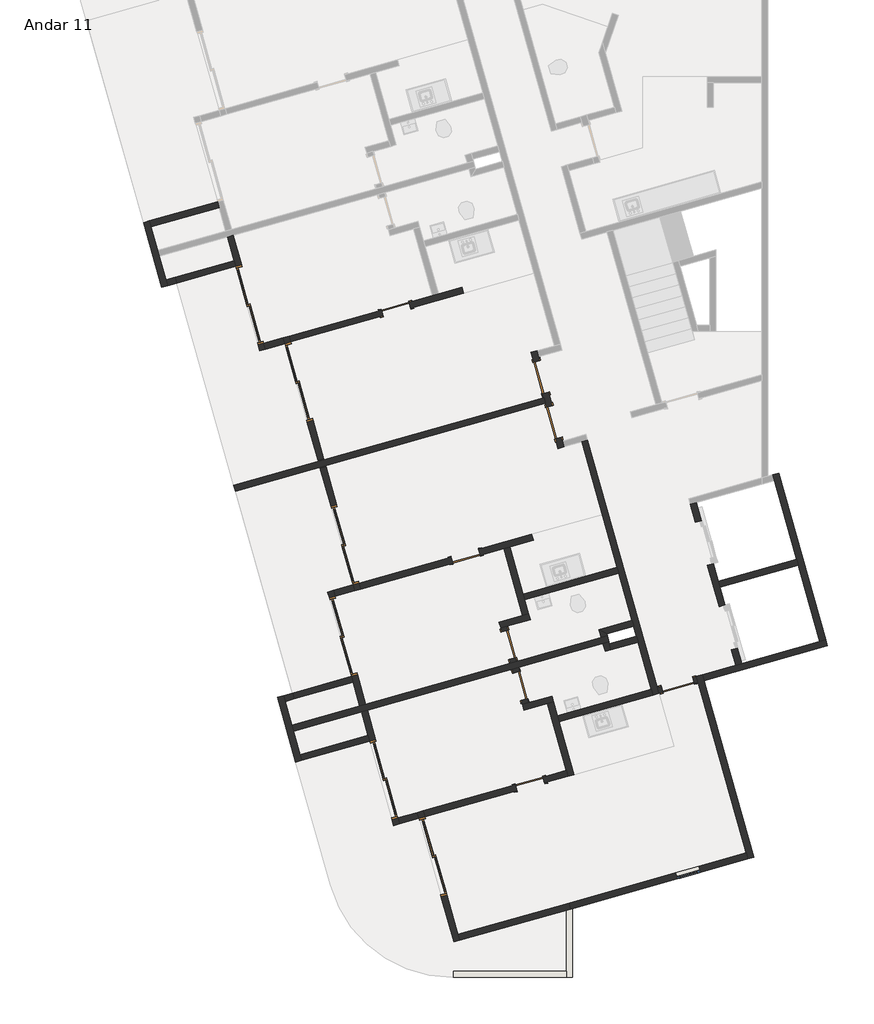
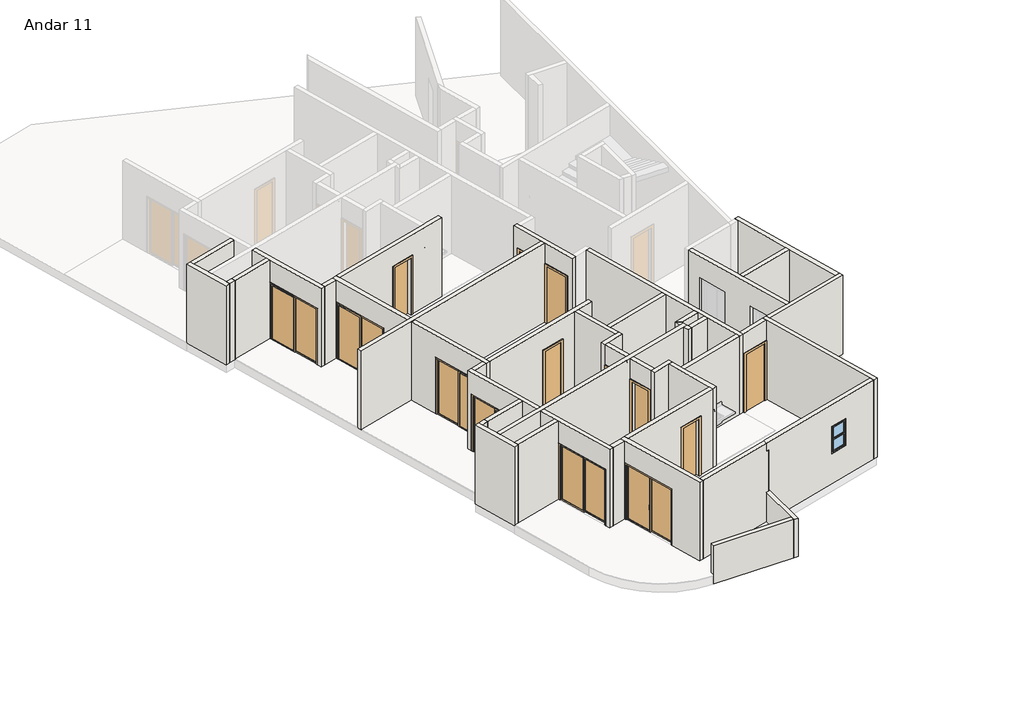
# One storey, part 1 of 3: 46 walls, 14 doors, 1 window.
"""IFC4 building model written with IfcOpenShell, lengths in millimetres."""

from ifc_helpers import new_model, si_unit, frame, origin, place, context, project, spatial, polyline, outline, extrude, faceted_brep, transform, mapped, element, save
from components import p2_80cm_9d4be4ef, p2_80cm_083652d6, p3_70cm_ef4d15e3, p3_70cm_0a698c7c, p4_correr_200cm_eaaa0877, p4_correr_200cm_830b8f20, bx_60cm_cef95a5c

model = new_model("IFC4")

# Units and contexts
model_context = context("Model", 3, world=origin())
ifc_project = project(units=[si_unit("LENGTHUNIT", "METRE", prefix="MILLI")], contexts=[model_context])

# Site, building, storey
site = spatial("IfcSite", under=ifc_project)
building = spatial("IfcBuilding", under=site)
storey = spatial("IfcBuildingStorey", under=building, Name="Andar 11", Elevation=82650.0)

# Doors
placement = place(None, origin())
p2_80cm_shape = p2_80cm_9d4be4ef(model_context)
element("IfcDoor", 1, ObjectType="M_Folha única1 : P2 - 80CM", at=placement, inside=storey, context=model_context, shape_type="MappedRepresentation", body=[
    mapped(p2_80cm_shape, transform((-80566.3456776, 19693.5423602, 82650.0), x_axis=(0.2717679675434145, -0.9623628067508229, 0.0), y_axis=(0.9623628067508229, 0.2717679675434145, 0.0), z_axis=(0.0, 0.0, 1.0))),
])
element("IfcDoor", 2, ObjectType="M_Folha única1 : P2 - 80CM", at=placement, inside=storey, context=model_context, shape_type="MappedRepresentation", body=[
    mapped(p2_80cm_shape, transform((-77213.6668366, 12144.847648, 82650.0), x_axis=(0.9623628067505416, 0.2717679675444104, 0.0), y_axis=(-0.2717679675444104, 0.9623628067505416, 0.0), z_axis=(0.0, 0.0, 1.0))),
])
p2_80cm_2_shape = p2_80cm_083652d6(model_context)
element("IfcDoor", 3, ObjectType="M_Folha única1 : P2 - 80CM", at=placement, inside=storey, context=model_context, shape_type="MappedRepresentation", body=[
    mapped(p2_80cm_2_shape, transform((-80253.8125149, 18586.8251325, 82650.0), x_axis=(-0.2717679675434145, 0.9623628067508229, 0.0), y_axis=(-0.9623628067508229, -0.2717679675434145, 0.0), z_axis=(0.0, 0.0, 1.0))),
])
p3_70cm_shape = p3_70cm_ef4d15e3(model_context)
element("IfcDoor", 4, ObjectType="M_Folha única1 : P3 - 70CM", at=placement, inside=storey, context=model_context, shape_type="MappedRepresentation", body=[
    mapped(p3_70cm_shape, transform((-84129.1775441, 21363.1168842, 82650.0), x_axis=(0.9623628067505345, 0.27176796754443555, 0.0), y_axis=(-0.27176796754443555, 0.9623628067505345, 0.0), z_axis=(0.0, 0.0, 1.0))),
])
element("IfcDoor", 5, ObjectType="M_Folha única1 : P3 - 70CM", at=placement, inside=storey, context=model_context, shape_type="MappedRepresentation", body=[
    mapped(p3_70cm_shape, transform((-80840.7851368, 9718.5269225, 82650.0), x_axis=(0.9623628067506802, 0.2717679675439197, 0.0), y_axis=(-0.2717679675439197, 0.9623628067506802, 0.0), z_axis=(0.0, 0.0, 1.0))),
])
element("IfcDoor", 6, ObjectType="M_Folha única1 : P3 - 70CM", at=placement, inside=storey, context=model_context, shape_type="MappedRepresentation", body=[
    mapped(p3_70cm_shape, transform((-81362.5862327, 13130.1209218, 82650.0), x_axis=(0.27176796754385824, -0.9623628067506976, 0.0), y_axis=(0.9623628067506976, 0.27176796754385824, 0.0), z_axis=(0.0, 0.0, 1.0))),
])
p3_70cm_2_shape = p3_70cm_0a698c7c(model_context)
element("IfcDoor", 7, ObjectType="M_Folha única1 : P3 - 70CM", at=placement, inside=storey, context=model_context, shape_type="MappedRepresentation", body=[
    mapped(p3_70cm_2_shape, transform((-81077.2298668, 12119.6399747, 82650.0), x_axis=(-0.27176796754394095, 0.9623628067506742, 0.0), y_axis=(-0.9623628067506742, -0.27176796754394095, 0.0), z_axis=(0.0, 0.0, 1.0))),
])
element("IfcDoor", 8, ObjectType="M_Folha única1 : P3 - 70CM", at=placement, inside=storey, context=model_context, shape_type="MappedRepresentation", body=[
    mapped(p3_70cm_2_shape, transform((-82417.0393485, 15300.2312016, 82650.0), x_axis=(0.9623628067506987, 0.2717679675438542, 0.0), y_axis=(-0.2717679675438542, 0.9623628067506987, 0.0), z_axis=(0.0, 0.0, 1.0))),
])
p4_correr_200cm_shape = p4_correr_200cm_eaaa0877(model_context)
element("IfcDoor", 9, ObjectType="Porta de correr dupla envidraçada sem revestimento : P4 - CORRER - 200CM", at=placement, inside=storey, context=model_context, shape_type="MappedRepresentation", body=[
    mapped(p4_correr_200cm_shape, transform((-86511.4049952, 19573.3416554, 82650.0), x_axis=(0.2717679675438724, -0.9623628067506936, 0.0), y_axis=(0.9623628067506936, 0.2717679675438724, 0.0), z_axis=(0.0, 0.0, 1.0))),
])
element("IfcDoor", 10, ObjectType="Porta de correr dupla envidraçada sem revestimento : P4 - CORRER - 200CM", at=placement, inside=storey, context=model_context, shape_type="MappedRepresentation", body=[
    mapped(p4_correr_200cm_shape, transform((-87717.4207223, 21466.8516126, 82650.0), x_axis=(0.2717679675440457, -0.9623628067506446, 0.0), y_axis=(0.9623628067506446, 0.2717679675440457, 0.0), z_axis=(0.0, 0.0, 1.0))),
])
element("IfcDoor", 11, ObjectType="Porta de correr dupla envidraçada sem revestimento : P4 - CORRER - 200CM", at=placement, inside=storey, context=model_context, shape_type="MappedRepresentation", body=[
    mapped(p4_correr_200cm_shape, transform((-84429.028315, 9822.2616509, 82650.0), x_axis=(-0.27176796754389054, 0.9623628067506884, 0.0), y_axis=(-0.9623628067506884, -0.27176796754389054, 0.0), z_axis=(0.0, 0.0, 1.0))),
])
element("IfcDoor", 12, ObjectType="Porta de correr dupla envidraçada sem revestimento : P4 - CORRER - 200CM", at=placement, inside=storey, context=model_context, shape_type="MappedRepresentation", body=[
    mapped(p4_correr_200cm_shape, transform((-83223.012588, 7928.7516937, 82650.0), x_axis=(-0.2717679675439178, 0.9623628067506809, 0.0), y_axis=(-0.9623628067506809, -0.2717679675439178, 0.0), z_axis=(0.0, 0.0, 1.0))),
])
p4_correr_200cm_2_shape = p4_correr_200cm_830b8f20(model_context)
element("IfcDoor", 13, ObjectType="Porta de correr dupla envidraçada sem revestimento : P4 - CORRER - 200CM", at=placement, inside=storey, context=model_context, shape_type="MappedRepresentation", body=[
    mapped(p4_correr_200cm_2_shape, transform((-85383.5679299, 15579.5360073, 82650.0), x_axis=(-0.2717679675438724, 0.9623628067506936, 0.0), y_axis=(-0.9623628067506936, -0.2717679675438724, 0.0), z_axis=(0.0, 0.0, 1.0))),
])
element("IfcDoor", 14, ObjectType="Porta de correr dupla envidraçada sem revestimento : P4 - CORRER - 200CM", at=placement, inside=storey, context=model_context, shape_type="MappedRepresentation", body=[
    mapped(p4_correr_200cm_2_shape, transform((-85420.9813965, 13334.8858955, 82650.0), x_axis=(-0.27176796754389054, 0.9623628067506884, 0.0), y_axis=(-0.9623628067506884, -0.27176796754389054, 0.0), z_axis=(0.0, 0.0, 1.0))),
])

# Walls
element("IfcWall", 15, ObjectType="Básica .15 - Externa", at=placement, inside=storey, context=model_context, shape_type="Brep", body=[
    faceted_brep([(-75344.9919691, 7919.3931149, 82650.0), (-76567.7484146, 12249.3196164, 82650.0), (-76608.5136097, 12393.6740374, 82650.0), (-76608.5136097, 12393.6740374, 85550.0), (-76567.7484146, 12249.3196164, 85550.0), (-75344.9919691, 7919.3931149, 85550.0), (-75489.3463901, 7878.6279198, 82650.0), (-75489.3463901, 7878.6279198, 85550.0), (-75530.1115852, 8022.9823408, 85550.0), (-76712.1028356, 12208.5544213, 85550.0), (-76752.8680308, 12352.9088423, 85550.0), (-76752.8680308, 12352.9088423, 82650.0), (-76712.1028356, 12208.5544213, 82650.0), (-75530.1115852, 8022.9823408, 82650.0)], [[[0, 1, 2, 3, 4, 5]], [[6, 7, 8, 9, 10, 11, 12, 13]], [[2, 1, 0, 6, 13, 12, 11]], [[5, 4, 3, 10, 9, 8, 7]], [[0, 5, 7, 6]], [[3, 2, 11, 10]]]),
])
element("IfcWall", 16, ObjectType="Básica .15 -  Interna", at=placement, inside=storey, context=model_context, shape_type="Brep", body=[
    faceted_brep([(-80529.815701, 19288.21464, 82650.0), (-80502.6389043, 19191.9783593, 82650.0), (-80461.8737092, 19047.6239383, 82650.0), (-80434.6969124, 18951.3876576, 82650.0), (-80434.6969124, 18951.3876576, 84750.0), (-80217.2825384, 18181.4974122, 84750.0), (-80217.2825384, 18181.4974122, 82650.0), (-80149.3405465, 17940.9067105, 82650.0), (-80149.3405465, 17940.9067105, 85550.0), (-80461.8737092, 19047.6239383, 85550.0), (-80502.6389043, 19191.9783593, 85550.0), (-80815.172067, 20298.695587, 85550.0), (-80815.172067, 20298.695587, 82650.0), (-80747.2300751, 20058.1048854, 82650.0), (-80747.2300751, 20058.1048854, 84750.0), (-80529.815701, 19288.21464, 84750.0), (-80290.3424914, 18992.1528527, 84750.0), (-80290.3424914, 18992.1528527, 82650.0), (-80385.46128, 19328.9798351, 82650.0), (-80385.46128, 19328.9798351, 84750.0), (-80602.8756541, 20098.8700805, 84750.0), (-80602.8756541, 20098.8700805, 82650.0), (-80630.0524508, 20195.1063612, 82650.0), (-80670.817646, 20339.4607822, 82650.0), (-80670.817646, 20339.4607822, 85550.0), (-80630.0524508, 20195.1063612, 85550.0), (-80045.7513206, 18126.0263266, 85550.0), (-80004.9861255, 17981.6719056, 85550.0), (-80004.9861255, 17981.6719056, 82650.0), (-80045.7513206, 18126.0263266, 82650.0), (-80072.9281174, 18222.2626073, 82650.0), (-80072.9281174, 18222.2626073, 84750.0)], [[[0, 1, 2, 3, 4, 5, 6, 7, 8, 9, 10, 11, 12, 13, 14, 15]], [[16, 17, 18, 19, 20, 21, 22, 23, 24, 25, 26, 27, 28, 29, 30, 31]], [[13, 12, 23, 22, 21]], [[18, 17, 3, 2, 1, 0]], [[30, 29, 28, 7, 6]], [[11, 10, 9, 8, 27, 26, 25, 24]], [[12, 11, 24, 23]], [[8, 7, 28, 27]], [[19, 18, 0, 15]], [[20, 19, 15, 14]], [[21, 20, 14, 13]], [[4, 3, 17, 16]], [[5, 4, 16, 31]], [[6, 5, 31, 30]]]),
])
element("IfcWall", 17, ObjectType="Básica .15 -  Interna", at=placement, inside=storey, context=model_context, shape_type="Brep", body=[
    faceted_brep([(-79571.9228624, 18103.967491, 82650.0), (-78702.2653663, 15024.4065094, 82650.0), (-78661.5001712, 14880.0520884, 82650.0), (-78335.3786101, 13725.2167203, 82650.0), (-78294.613415, 13580.8622993, 82650.0), (-78226.6714231, 13340.2715976, 82650.0), (-78185.906228, 13195.9171766, 82650.0), (-77818.8200634, 11896.0212586, 82650.0), (-77818.8200634, 11896.0212586, 85550.0), (-78185.906228, 13195.9171766, 85550.0), (-78226.6714231, 13340.2715976, 85550.0), (-78294.613415, 13580.8622993, 85550.0), (-78335.3786101, 13725.2167203, 85550.0), (-78661.5001712, 14880.0520884, 85550.0), (-78702.2653663, 15024.4065094, 85550.0), (-79571.9228624, 18103.967491, 85550.0), (-79427.5684414, 18144.7326862, 82650.0), (-79427.5684414, 18144.7326862, 85550.0), (-77715.2308375, 12081.1408747, 85550.0), (-77674.4656424, 11936.7864537, 85550.0), (-77674.4656424, 11936.7864537, 82650.0), (-77715.2308375, 12081.1408747, 82650.0)], [[[0, 1, 2, 3, 4, 5, 6, 7, 8, 9, 10, 11, 12, 13, 14, 15]], [[16, 17, 18, 19, 20, 21]], [[7, 6, 5, 4, 3, 2, 1, 0, 16, 21, 20]], [[15, 14, 13, 12, 11, 10, 9, 8, 19, 18, 17]], [[0, 15, 17, 16]], [[8, 7, 20, 19]]]),
])
element("IfcWall", 18, ObjectType="Básica .15 -  Interna", at=placement, inside=storey, context=model_context, shape_type="Brep", body=[
    faceted_brep([(-85017.5646639, 11630.3683862, 85550.0), (-85180.6254444, 12207.7860702, 85550.0), (-85221.3906395, 12352.1404912, 85550.0), (-85805.6917697, 14421.2205257, 85550.0), (-85805.6917697, 14421.2205257, 82650.0), (-85764.9265746, 14276.8661047, 82650.0), (-85764.9265746, 14276.8661047, 84750.0), (-85221.3906395, 12352.1404912, 84750.0), (-85221.3906395, 12352.1404912, 82650.0), (-85180.6254444, 12207.7860702, 82650.0), (-85017.5646639, 11630.3683862, 82650.0), (-85661.3373487, 14461.9857209, 85550.0), (-85620.5721536, 14317.6312998, 85550.0), (-84873.2102428, 11671.1335813, 85550.0), (-84873.2102428, 11671.1335813, 82650.0), (-85077.0362185, 12392.9056863, 82650.0), (-85077.0362185, 12392.9056863, 84750.0), (-85620.5721536, 14317.6312998, 84750.0), (-85620.5721536, 14317.6312998, 82650.0), (-85661.3373487, 14461.9857209, 82650.0)], [[[0, 1, 2, 3, 4, 5, 6, 7, 8, 9, 10]], [[11, 12, 13, 14, 15, 16, 17, 18, 19]], [[4, 19, 18, 5]], [[14, 10, 9, 8, 15]], [[3, 2, 1, 0, 13, 12, 11]], [[4, 3, 11, 19]], [[0, 10, 14, 13]], [[17, 6, 5, 18]], [[6, 17, 16, 7]], [[7, 16, 15, 8]]]),
])
element("IfcWall", 19, ObjectType="Básica .15 -  Interna", at=placement, inside=storey, context=model_context, shape_type="Brep", body=[
    faceted_brep([(-82710.8886682, 5839.2890616, 85550.0), (-83566.957766, 8870.7319029, 85550.0), (-83607.7229611, 9015.0863239, 85550.0), (-83607.7229611, 9015.0863239, 82650.0), (-83566.957766, 8870.7319029, 82650.0), (-83566.957766, 8870.7319029, 84750.0), (-83023.4218309, 6946.0062894, 84750.0), (-83023.4218309, 6946.0062894, 82650.0), (-82710.8886682, 5839.2890616, 82650.0), (-83463.3685401, 9055.851519, 85550.0), (-83422.603345, 8911.497098, 85550.0), (-82607.2994424, 6024.4086777, 85550.0), (-82566.5342472, 5880.0542567, 85550.0), (-82566.5342472, 5880.0542567, 82650.0), (-82607.2994424, 6024.4086777, 82650.0), (-82879.0674099, 6986.7714845, 82650.0), (-82879.0674099, 6986.7714845, 84750.0), (-83422.603345, 8911.497098, 84750.0), (-83422.603345, 8911.497098, 82650.0), (-83463.3685401, 9055.851519, 82650.0)], [[[0, 1, 2, 3, 4, 5, 6, 7, 8]], [[9, 10, 11, 12, 13, 14, 15, 16, 17, 18, 19]], [[3, 19, 18, 4]], [[13, 8, 7, 15, 14]], [[2, 1, 0, 12, 11, 10, 9]], [[3, 2, 9, 19]], [[0, 8, 13, 12]], [[17, 5, 4, 18]], [[5, 17, 16, 6]], [[6, 16, 15, 7]]]),
])
element("IfcWall", 20, ObjectType="Básica .15 -  Interna", at=placement, inside=storey, context=model_context, shape_type="Brep", body=[
    faceted_brep([(-86046.8404698, 17652.2925145, 82650.0), (-86046.8404698, 17652.2925145, 85550.0), (-86855.3501733, 20515.3218646, 85550.0), (-86896.1153684, 20659.6762856, 85550.0), (-86896.1153684, 20659.6762856, 82650.0), (-86855.3501733, 20515.3218646, 82650.0), (-86855.3501733, 20515.3218646, 84750.0), (-86311.8142382, 18590.596251, 84750.0), (-86311.8142382, 18590.596251, 82650.0), (-85902.4860488, 17693.0577096, 85550.0), (-85902.4860488, 17693.0577096, 82650.0), (-86167.4598172, 18631.3614462, 82650.0), (-86167.4598172, 18631.3614462, 84750.0), (-86710.9957523, 20556.0870597, 84750.0), (-86710.9957523, 20556.0870597, 82650.0), (-86751.7609474, 20700.4414807, 82650.0), (-86751.7609474, 20700.4414807, 85550.0), (-86710.9957523, 20556.0870597, 85550.0)], [[[0, 1, 2, 3, 4, 5, 6, 7, 8]], [[9, 10, 11, 12, 13, 14, 15, 16, 17]], [[10, 0, 8, 11]], [[4, 15, 14, 5]], [[1, 0, 10, 9]], [[3, 2, 1, 9, 17, 16]], [[4, 3, 16, 15]], [[7, 12, 11, 8]], [[12, 7, 6, 13]], [[13, 6, 5, 14]]]),
])
element("IfcWall", 21, ObjectType="Básica .15 - Externa", at=placement, inside=storey, context=model_context, shape_type="Brep", body=[
    faceted_brep([(-79945.4990038, 6620.2256515, 83750.0), (-79945.4990038, 6620.2256515, 82650.0), (-79945.4990038, 6620.2256515, 82350.0), (-79945.4990038, 5119.4122055, 82350.0), (-79945.4990038, 4969.4122055, 82350.0), (-79945.4990038, 4969.4122055, 83750.0), (-79945.4990038, 5119.4122055, 83750.0), (-79795.4990038, 6662.5851389, 82350.0), (-79795.4990038, 6662.5851389, 83750.0), (-79795.4990038, 4969.4122055, 83750.0), (-79795.4990038, 4969.4122055, 82350.0), (-79850.1164062, 6647.1613711, 82350.0)], [[[0, 1, 2, 3, 4, 5, 6]], [[7, 8, 9, 10]], [[4, 3, 2, 11, 7, 10]], [[0, 6, 5, 9, 8]], [[5, 4, 10, 9]], [[0, 8, 7, 11, 2, 1]]]),
])
element("IfcWall", 22, ObjectType="Básica .15 - Externa", at=placement, inside=storey, context=model_context, shape_type="SweptSolid", body=[
    extrude(outline(polyline([(-82713.5540687, 5119.4122055), (-79945.4990038, 5119.4122055), (-79945.4990038, 4969.4122055), (-82713.5540687, 4969.4122055), (-82713.5540687, 5119.4122055)])), frame((0.0, 0.0, 82350.0), z_axis=(0.0, 0.0, 1.0), x_axis=(1.0, 0.0, 0.0)), (0.0, 0.0, 1.0), 1400.0),
])
element("IfcWall", 23, ObjectType="Básica .15 - Externa", at=placement, inside=storey, context=model_context, shape_type="Brep", body=[
    faceted_brep([(-73581.8825825, 13248.3842954, 82650.0), (-73726.2370035, 13207.6191002, 82650.0), (-75646.150803, 12665.442005, 82650.0), (-75790.505224, 12624.6768098, 82650.0), (-76608.5136097, 12393.6740374, 82650.0), (-76608.5136097, 12393.6740374, 85550.0), (-75790.505224, 12624.6768098, 85550.0), (-75646.150803, 12665.442005, 85550.0), (-73726.2370035, 13207.6191002, 85550.0), (-73581.8825825, 13248.3842954, 85550.0), (-73541.1173874, 13104.0298743, 82650.0), (-73541.1173874, 13104.0298743, 85550.0), (-76567.7484146, 12249.3196164, 85550.0), (-76567.7484146, 12249.3196164, 82650.0)], [[[0, 1, 2, 3, 4, 5, 6, 7, 8, 9]], [[10, 11, 12, 13]], [[4, 3, 2, 1, 0, 10, 13]], [[9, 8, 7, 6, 5, 12, 11]], [[0, 9, 11, 10]], [[5, 4, 13, 12]]]),
])
element("IfcWall", 24, ObjectType="Básica .15 - Externa", at=placement, inside=storey, context=model_context, shape_type="Brep", body=[
    faceted_brep([(-74881.2508656, 17297.6610289, 82650.0), (-74840.4856705, 17153.3066079, 82650.0), (-74296.9497354, 15228.5809944, 82650.0), (-74256.1845402, 15084.2265734, 82650.0), (-73726.2370035, 13207.6191002, 82650.0), (-73726.2370035, 13207.6191002, 85550.0), (-74256.1845402, 15084.2265734, 85550.0), (-74296.9497354, 15228.5809944, 85550.0), (-74840.4856705, 17153.3066079, 85550.0), (-74881.2508656, 17297.6610289, 85550.0), (-74736.8964446, 17338.426224, 82650.0), (-74736.8964446, 17338.426224, 85550.0), (-73581.8825825, 13248.3842954, 85550.0), (-73581.8825825, 13248.3842954, 82650.0)], [[[0, 1, 2, 3, 4, 5, 6, 7, 8, 9]], [[10, 11, 12, 13]], [[4, 3, 2, 1, 0, 10, 13]], [[9, 8, 7, 6, 5, 12, 11]], [[0, 9, 11, 10]], [[5, 4, 13, 12]]]),
])
element("IfcWall", 25, ObjectType="Básica .15 -  Interna", at=placement, inside=storey, context=model_context, shape_type="Brep", body=[
    faceted_brep([(-76483.167581, 15077.4768805, 82650.0), (-76197.8112151, 14066.9959334, 82650.0), (-76197.8112151, 14066.9959334, 84775.0), (-75898.8664508, 13008.396846, 84775.0), (-75898.8664508, 13008.396846, 82650.0), (-75790.505224, 12624.6768098, 82650.0), (-75790.505224, 12624.6768098, 85550.0), (-76904.7538909, 16570.3643175, 85550.0), (-76904.7538909, 16570.3643175, 82650.0), (-76782.1123453, 16136.075968, 82650.0), (-76782.1123453, 16136.075968, 84775.0), (-76483.167581, 15077.4768805, 84775.0), (-76053.4567941, 14107.7611286, 84775.0), (-76053.4567941, 14107.7611286, 82650.0), (-76176.0983397, 14542.0494781, 82650.0), (-76216.8635348, 14686.4038991, 82650.0), (-76338.81316, 15118.2420757, 82650.0), (-76338.81316, 15118.2420757, 84775.0), (-76637.7579243, 16176.8411631, 84775.0), (-76637.7579243, 16176.8411631, 82650.0), (-76760.3994699, 16611.1295126, 82650.0), (-76760.3994699, 16611.1295126, 85550.0), (-76216.8635348, 14686.4038991, 85550.0), (-76176.0983397, 14542.0494781, 85550.0), (-75646.150803, 12665.442005, 85550.0), (-75646.150803, 12665.442005, 82650.0), (-75754.5120298, 13049.1620412, 82650.0), (-75754.5120298, 13049.1620412, 84775.0)], [[[0, 1, 2, 3, 4, 5, 6, 7, 8, 9, 10, 11]], [[12, 13, 14, 15, 16, 17, 18, 19, 20, 21, 22, 23, 24, 25, 26, 27]], [[9, 8, 20, 19]], [[26, 25, 5, 4]], [[16, 15, 14, 13, 1, 0]], [[7, 6, 24, 23, 22, 21]], [[8, 7, 21, 20]], [[6, 5, 25, 24]], [[4, 3, 27, 26]], [[2, 1, 13, 12]], [[3, 2, 12, 27]], [[19, 18, 10, 9]], [[17, 16, 0, 11]], [[18, 17, 11, 10]]]),
])
element("IfcWall", 26, ObjectType="Básica .15 -  Interna", at=placement, inside=storey, context=model_context, shape_type="SweptSolid", body=[
    extrude(outline(polyline([(-74256.1845402, 15084.2265734), (-76176.0983397, 14542.0494781), (-76216.8635348, 14686.4038991), (-74296.9497354, 15228.5809944), (-74256.1845402, 15084.2265734)])), frame((0.0, 0.0, 82650.0), z_axis=(0.0, 0.0, 1.0), x_axis=(1.0, 0.0, 0.0)), (0.0, 0.0, 1.0), 2900.0),
])
element("IfcWall", 27, ObjectType="Básica .15 -  Interna", at=placement, inside=storey, context=model_context, shape_type="Brep", body=[
    faceted_brep([(-82566.5342472, 5880.0542567, 82650.0), (-79945.4990038, 6620.2256515, 82650.0), (-79850.1164062, 6647.1613711, 82650.0), (-79850.1164062, 6647.1613711, 85250.0), (-79945.4990038, 6620.2256515, 85250.0), (-79945.4990038, 6620.2256515, 85550.0), (-82566.5342472, 5880.0542567, 85550.0), (-82607.2994424, 6024.4086777, 82650.0), (-82607.2994424, 6024.4086777, 85550.0), (-79945.4990038, 6776.0920243, 85550.0), (-79945.4990038, 6776.0920243, 85250.0), (-79890.8816014, 6791.5157921, 85250.0), (-79890.8816014, 6791.5157921, 82650.0), (-79945.4990038, 6776.0920243, 82650.0)], [[[0, 1, 2, 3, 4, 5, 6]], [[7, 8, 9, 10, 11, 12, 13]], [[2, 1, 0, 7, 13, 12]], [[6, 5, 9, 8]], [[0, 6, 8, 7]], [[2, 12, 11, 3]], [[10, 4, 3, 11]], [[5, 4, 10, 9]]]),
])
element("IfcWall", 28, ObjectType="Básica .15 -  Interna", at=placement, inside=storey, context=model_context, shape_type="Brep", body=[
    faceted_brep([(-85221.3906395, 12352.1404912, 82650.0), (-86668.7560772, 11943.4094383, 82650.0), (-86668.7560772, 11943.4094383, 85550.0), (-85221.3906395, 12352.1404912, 85550.0), (-85221.3906395, 12352.1404912, 84750.0), (-85180.6254444, 12207.7860702, 82650.0), (-85180.6254444, 12207.7860702, 85550.0), (-86627.9908821, 11799.0550173, 85550.0), (-86627.9908821, 11799.0550173, 82650.0)], [[[0, 1, 2, 3, 4]], [[5, 6, 7, 8]], [[1, 0, 5, 8]], [[2, 1, 8, 7]], [[3, 2, 7, 6]], [[0, 4, 3, 6, 5]]]),
])
element("IfcWall", 29, ObjectType="Básica .15 - Externa", at=placement, inside=storey, context=model_context, shape_type="Brep", body=[
    faceted_brep([(-86444.4738537, 10292.215871, 82650.0), (-86485.2390488, 10436.570292, 82650.0), (-86648.2998293, 11013.987976, 82650.0), (-86689.0650245, 11158.342397, 82650.0), (-86852.125805, 11735.7600811, 82650.0), (-86892.8910001, 11880.1145021, 82650.0), (-86892.8910001, 11880.1145021, 85550.0), (-86852.125805, 11735.7600811, 85550.0), (-86689.0650245, 11158.342397, 85550.0), (-86648.2998293, 11013.987976, 85550.0), (-86485.2390488, 10436.570292, 85550.0), (-86444.4738537, 10292.215871, 85550.0), (-86588.8282747, 10251.4506758, 82650.0), (-86588.8282747, 10251.4506758, 85550.0), (-87037.2454211, 11839.349307, 85550.0), (-87037.2454211, 11839.349307, 82650.0)], [[[0, 1, 2, 3, 4, 5, 6, 7, 8, 9, 10, 11]], [[12, 13, 14, 15]], [[5, 4, 3, 2, 1, 0, 12, 15]], [[11, 10, 9, 8, 7, 6, 14, 13]], [[6, 5, 15, 14]], [[0, 11, 13, 12]]]),
])
element("IfcWall", 30, ObjectType="Básica .15 -  Interna", at=placement, inside=storey, context=model_context, shape_type="Brep", body=[
    faceted_brep([(-86444.4738537, 10292.215871, 82650.0), (-84772.9734931, 10764.2418601, 82650.0), (-84772.9734931, 10764.2418601, 84750.0), (-84772.9734931, 10764.2418601, 85550.0), (-86444.4738537, 10292.215871, 85550.0), (-86485.2390488, 10436.570292, 82650.0), (-86485.2390488, 10436.570292, 85550.0), (-84813.7386882, 10908.5962811, 85550.0), (-84813.7386882, 10908.5962811, 82650.0)], [[[0, 1, 2, 3, 4]], [[5, 6, 7, 8]], [[1, 0, 5, 8]], [[4, 3, 7, 6]], [[0, 4, 6, 5]], [[3, 2, 1, 8, 7]]]),
])
element("IfcWall", 31, ObjectType="Básica .15 - Externa", at=placement, inside=storey, context=model_context, shape_type="Brep", body=[
    faceted_brep([(-89732.866261, 21936.8058326, 82650.0), (-89773.6314561, 22081.1602536, 82650.0), (-89936.6922366, 22658.5779377, 82650.0), (-89977.4574318, 22802.9323587, 82650.0), (-90140.5182123, 23380.3500428, 82650.0), (-90181.2834074, 23524.7044638, 82650.0), (-90181.2834074, 23524.7044638, 85550.0), (-90140.5182123, 23380.3500428, 85550.0), (-89977.4574318, 22802.9323587, 85550.0), (-89936.6922366, 22658.5779377, 85550.0), (-89773.6314561, 22081.1602536, 85550.0), (-89732.866261, 21936.8058326, 85550.0), (-89877.220682, 21896.0406375, 82650.0), (-89877.220682, 21896.0406375, 85550.0), (-90325.6378284, 23483.9392686, 85550.0), (-90325.6378284, 23483.9392686, 82650.0)], [[[0, 1, 2, 3, 4, 5, 6, 7, 8, 9, 10, 11]], [[12, 13, 14, 15]], [[5, 4, 3, 2, 1, 0, 12, 15]], [[11, 10, 9, 8, 7, 6, 14, 13]], [[0, 11, 13, 12]], [[6, 5, 15, 14]]]),
])
element("IfcWall", 32, ObjectType="Básica .15 -  Interna", at=placement, inside=storey, context=model_context, shape_type="Brep", body=[
    faceted_brep([(-88102.1310955, 22553.1862428, 82650.0), (-89549.4965332, 22144.4551899, 82650.0), (-89549.4965332, 22144.4551899, 85550.0), (-88102.1310955, 22553.1862428, 85550.0), (-88061.3659003, 22408.8318218, 82650.0), (-88061.3659003, 22408.8318218, 84750.0), (-88061.3659003, 22408.8318218, 85550.0), (-89508.731338, 22000.1007688, 85550.0), (-89508.731338, 22000.1007688, 82650.0)], [[[0, 1, 2, 3]], [[4, 5, 6, 7, 8]], [[1, 0, 4, 8]], [[2, 1, 8, 7]], [[3, 2, 7, 6]], [[0, 3, 6, 5, 4]]]),
])
element("IfcWall", 33, ObjectType="Básica .15 -  Interna", at=placement, inside=storey, context=model_context, shape_type="Brep", body=[
    faceted_brep([(-90140.5182123, 23380.3500428, 82650.0), (-88469.0178517, 23852.3760319, 82650.0), (-88469.0178517, 23852.3760319, 85550.0), (-90140.5182123, 23380.3500428, 85550.0), (-90181.2834074, 23524.7044638, 82650.0), (-90181.2834074, 23524.7044638, 85550.0), (-88509.7830468, 23996.7304529, 85550.0), (-88509.7830468, 23996.7304529, 84750.0), (-88509.7830468, 23996.7304529, 82650.0)], [[[0, 1, 2, 3]], [[4, 5, 6, 7, 8]], [[1, 0, 4, 8]], [[3, 2, 6, 5]], [[0, 3, 5, 4]], [[2, 1, 8, 7, 6]]]),
])
element("IfcWall", 34, ObjectType="Básica .15 -  Interna", at=placement, inside=storey, context=model_context, shape_type="Brep", body=[
    faceted_brep([(-86896.1153684, 20659.6762856, 82650.0), (-87373.4755442, 20524.8714034, 82650.0), (-87373.4755442, 20524.8714034, 84750.0), (-87373.4755442, 20524.8714034, 85550.0), (-86896.1153684, 20659.6762856, 85550.0), (-86855.3501733, 20515.3218646, 82650.0), (-86855.3501733, 20515.3218646, 84750.0), (-86855.3501733, 20515.3218646, 85550.0), (-87332.7103491, 20380.5169824, 85550.0), (-87332.7103491, 20380.5169824, 82650.0)], [[[0, 1, 2, 3, 4]], [[5, 6, 7, 8, 9]], [[1, 0, 5, 9]], [[4, 3, 8, 7]], [[0, 4, 7, 6, 5]], [[3, 2, 1, 9, 8]]]),
])
element("IfcWall", 35, ObjectType="Básica .15 -  Interna", at=placement, inside=storey, context=model_context, shape_type="Brep", body=[
    faceted_brep([(-83607.7229611, 9015.0863239, 82650.0), (-84085.083137, 8880.2814417, 82650.0), (-84085.083137, 8880.2814417, 84750.0), (-84085.083137, 8880.2814417, 85550.0), (-83607.7229611, 9015.0863239, 85550.0), (-83566.957766, 8870.7319029, 82650.0), (-83566.957766, 8870.7319029, 84750.0), (-83566.957766, 8870.7319029, 85550.0), (-84044.3179418, 8735.9270207, 85550.0), (-84044.3179418, 8735.9270207, 82650.0)], [[[0, 1, 2, 3, 4]], [[5, 6, 7, 8, 9]], [[1, 0, 5, 9]], [[4, 3, 8, 7]], [[3, 2, 1, 9, 8]], [[0, 4, 7, 6, 5]]]),
])
element("IfcWall", 36, ObjectType="Básica .15 -  Interna", at=placement, inside=storey, context=model_context, shape_type="Brep", body=[
    faceted_brep([(-85183.9771729, 14596.790603, 82650.0), (-85661.3373487, 14461.9857209, 82650.0), (-85661.3373487, 14461.9857209, 85550.0), (-85183.9771729, 14596.790603, 85550.0), (-85183.9771729, 14596.790603, 84750.0), (-85143.2119778, 14452.436182, 82650.0), (-85143.2119778, 14452.436182, 85550.0), (-85620.5721536, 14317.6312998, 85550.0), (-85620.5721536, 14317.6312998, 84750.0), (-85620.5721536, 14317.6312998, 82650.0)], [[[0, 1, 2, 3, 4]], [[5, 6, 7, 8, 9]], [[1, 0, 5, 9]], [[3, 2, 7, 6]], [[2, 1, 9, 8, 7]], [[0, 4, 3, 6, 5]]]),
])
element("IfcWall", 37, ObjectType="Básica .15 -  Interna", at=placement, inside=storey, context=model_context, shape_type="Brep", body=[
    faceted_brep([(-87477.0647701, 20339.7517872, 85550.0), (-88061.3659003, 22408.8318218, 85550.0), (-88102.1310955, 22553.1862428, 85550.0), (-88265.191876, 23130.6039268, 85550.0), (-88265.191876, 23130.6039268, 82650.0), (-88102.1310955, 22553.1862428, 82650.0), (-88061.3659003, 22408.8318218, 82650.0), (-88061.3659003, 22408.8318218, 84750.0), (-87517.8299653, 20484.1062083, 84750.0), (-87517.8299653, 20484.1062083, 82650.0), (-87477.0647701, 20339.7517872, 82650.0), (-88120.837455, 23171.369122, 85550.0), (-87373.4755442, 20524.8714034, 85550.0), (-87332.7103491, 20380.5169824, 85550.0), (-87332.7103491, 20380.5169824, 82650.0), (-87373.4755442, 20524.8714034, 82650.0), (-87373.4755442, 20524.8714034, 84750.0), (-87917.0114793, 22449.5970169, 84750.0), (-87917.0114793, 22449.5970169, 82650.0), (-88120.837455, 23171.369122, 82650.0)], [[[0, 1, 2, 3, 4, 5, 6, 7, 8, 9, 10]], [[11, 12, 13, 14, 15, 16, 17, 18, 19]], [[14, 10, 9, 15]], [[4, 19, 18, 6, 5]], [[3, 2, 1, 0, 13, 12, 11]], [[0, 10, 14, 13]], [[4, 3, 11, 19]], [[8, 16, 15, 9]], [[16, 8, 7, 17]], [[17, 7, 6, 18]]]),
])
element("IfcWall", 38, ObjectType="Básica .15 -  Interna", at=placement, inside=storey, context=model_context, shape_type="Brep", body=[
    faceted_brep([(-85143.2119778, 14452.436182, 85550.0), (-85183.9771729, 14596.790603, 85550.0), (-85992.4868763, 17459.8199531, 85550.0), (-85992.4868763, 17459.8199531, 82650.0), (-85727.513108, 16521.5162165, 82650.0), (-85727.513108, 16521.5162165, 84750.0), (-85183.9771729, 14596.790603, 84750.0), (-85183.9771729, 14596.790603, 82650.0), (-85143.2119778, 14452.436182, 82650.0), (-85848.1324553, 17500.5851482, 85550.0), (-85039.6227519, 14637.5557982, 85550.0), (-84998.8575568, 14493.2013772, 85550.0), (-84998.8575568, 14493.2013772, 82650.0), (-85039.6227519, 14637.5557982, 82650.0), (-85039.6227519, 14637.5557982, 84750.0), (-85583.158687, 16562.2814117, 84750.0), (-85583.158687, 16562.2814117, 82650.0), (-85848.1324553, 17500.5851482, 82650.0)], [[[0, 1, 2, 3, 4, 5, 6, 7, 8]], [[9, 10, 11, 12, 13, 14, 15, 16, 17]], [[3, 17, 16, 4]], [[12, 8, 7, 13]], [[2, 1, 0, 11, 10, 9]], [[3, 2, 9, 17]], [[0, 8, 12, 11]], [[15, 5, 4, 16]], [[5, 15, 14, 6]], [[6, 14, 13, 7]]]),
])
element("IfcWall", 39, ObjectType="Básica .15 -  Interna", at=placement, inside=storey, context=model_context, shape_type="SweptSolid", body=[
    extrude(outline(polyline([(-80461.8737092, 19047.6239383), (-88068.36111, 16899.5778931), (-88109.1263052, 17043.9323141), (-80502.6389043, 19191.9783593), (-80461.8737092, 19047.6239383)])), frame((0.0, 0.0, 82650.0), z_axis=(0.0, 0.0, 1.0), x_axis=(1.0, 0.0, 0.0)), (0.0, 0.0, 1.0), 2900.0),
])
element("IfcWall", 40, ObjectType="Básica .15 -  Interna", at=placement, inside=storey, context=model_context, shape_type="Brep", body=[
    faceted_brep([(-78945.0553533, 13345.2242614, 82650.0), (-81168.1134369, 12717.4402563, 82650.0), (-81312.4678579, 12676.6750612, 82650.0), (-84873.2102428, 11671.1335813, 82650.0), (-85017.5646639, 11630.3683862, 82650.0), (-86689.0650245, 11158.342397, 82650.0), (-86689.0650245, 11158.342397, 85550.0), (-85017.5646639, 11630.3683862, 85550.0), (-84873.2102428, 11671.1335813, 85550.0), (-81312.4678579, 12676.6750612, 85550.0), (-81168.1134369, 12717.4402563, 85550.0), (-78945.0553533, 13345.2242614, 85550.0), (-78904.2901581, 13200.8698403, 82650.0), (-78904.2901581, 13200.8698403, 85550.0), (-81127.3482417, 12573.0858353, 85550.0), (-81271.7026627, 12532.3206402, 85550.0), (-84832.4450477, 11526.7791603, 85550.0), (-84976.7994687, 11486.0139651, 85550.0), (-86648.2998293, 11013.987976, 85550.0), (-86648.2998293, 11013.987976, 82650.0), (-84976.7994687, 11486.0139651, 82650.0), (-84832.4450477, 11526.7791603, 82650.0), (-81271.7026627, 12532.3206402, 82650.0), (-81127.3482417, 12573.0858353, 82650.0)], [[[0, 1, 2, 3, 4, 5, 6, 7, 8, 9, 10, 11]], [[12, 13, 14, 15, 16, 17, 18, 19, 20, 21, 22, 23]], [[5, 4, 3, 2, 1, 0, 12, 23, 22, 21, 20, 19]], [[11, 10, 9, 8, 7, 6, 18, 17, 16, 15, 14, 13]], [[0, 11, 13, 12]], [[6, 5, 19, 18]]]),
])
element("IfcWall", 41, ObjectType="Básica .15 -  Interna", at=placement, inside=storey, context=model_context, shape_type="Brep", body=[
    faceted_brep([(-84188.6723628, 8695.1618256, 85550.0), (-84772.9734931, 10764.2418601, 85550.0), (-84813.7386882, 10908.5962811, 85550.0), (-84976.7994687, 11486.0139651, 85550.0), (-84976.7994687, 11486.0139651, 82650.0), (-84813.7386882, 10908.5962811, 82650.0), (-84772.9734931, 10764.2418601, 82650.0), (-84772.9734931, 10764.2418601, 84750.0), (-84229.437558, 8839.5162466, 84750.0), (-84229.437558, 8839.5162466, 82650.0), (-84188.6723628, 8695.1618256, 82650.0), (-84832.4450477, 11526.7791603, 85550.0), (-84085.083137, 8880.2814417, 85550.0), (-84044.3179418, 8735.9270207, 85550.0), (-84044.3179418, 8735.9270207, 82650.0), (-84085.083137, 8880.2814417, 82650.0), (-84085.083137, 8880.2814417, 84750.0), (-84628.6190721, 10805.0070552, 84750.0), (-84628.6190721, 10805.0070552, 82650.0), (-84832.4450477, 11526.7791603, 82650.0)], [[[0, 1, 2, 3, 4, 5, 6, 7, 8, 9, 10]], [[11, 12, 13, 14, 15, 16, 17, 18, 19]], [[14, 10, 9, 15]], [[4, 19, 18, 6, 5]], [[3, 2, 1, 0, 13, 12, 11]], [[0, 10, 14, 13]], [[4, 3, 11, 19]], [[17, 7, 6, 18]], [[7, 17, 16, 8]], [[8, 16, 15, 9]]]),
])
element("IfcWall", 42, ObjectType="Básica .15 - Externa", at=placement, inside=storey, context=model_context, shape_type="Brep", body=[
    faceted_brep([(-79850.1164062, 6647.1613711, 85250.0), (-79850.1164062, 6647.1613711, 82650.0), (-75489.3463901, 7878.6279198, 82650.0), (-75489.3463901, 7878.6279198, 85550.0), (-79850.1164062, 6647.1613711, 85550.0), (-79945.4990038, 6620.2256515, 85550.0), (-79945.4990038, 6620.2256515, 85250.0), (-76649.6431667, 7550.9640756, 83750.0), (-77227.0608508, 7387.9032951, 83750.0), (-77227.0608508, 7387.9032951, 84750.0), (-76649.6431667, 7550.9640756, 84750.0), (-79890.8816014, 6791.5157921, 82650.0), (-79890.8816014, 6791.5157921, 85250.0), (-79945.4990038, 6776.0920243, 85250.0), (-79945.4990038, 6776.0920243, 85550.0), (-79890.8816014, 6791.5157921, 85550.0), (-75530.1115852, 8022.9823408, 85550.0), (-75530.1115852, 8022.9823408, 82650.0), (-76690.4083619, 7695.3184966, 83750.0), (-76690.4083619, 7695.3184966, 84750.0), (-77267.8260459, 7532.2577161, 84750.0), (-77267.8260459, 7532.2577161, 83750.0)], [[[0, 1, 2, 3, 4, 5, 6], [7, 8, 9, 10]], [[11, 12, 13, 14, 15, 16, 17], [18, 19, 20, 21]], [[2, 1, 11, 17]], [[5, 4, 3, 16, 15, 14]], [[18, 21, 8, 7]], [[21, 20, 9, 8]], [[20, 19, 10, 9]], [[19, 18, 7, 10]], [[3, 2, 17, 16]], [[0, 12, 11, 1]], [[6, 13, 12, 0]], [[6, 5, 14, 13]]]),
])
element("IfcWall", 43, ObjectType="Básica .15 - Externa", at=placement, inside=storey, context=model_context, shape_type="SweptSolid", body=[
    extrude(outline(polyline([(-89773.6314561, 22081.1602536), (-89549.4965332, 22144.4551899), (-89508.731338, 22000.1007688), (-89732.866261, 21936.8058326), (-89773.6314561, 22081.1602536)])), frame((0.0, 0.0, 82650.0), z_axis=(0.0, 0.0, 1.0), x_axis=(1.0, 0.0, 0.0)), (0.0, 0.0, 1.0), 2900.0),
])
element("IfcWall", 44, ObjectType="Básica .15 - Externa", at=placement, inside=storey, context=model_context, shape_type="SweptSolid", body=[
    extrude(outline(polyline([(-86892.8910001, 11880.1145021), (-86668.7560772, 11943.4094383), (-86627.9908821, 11799.0550173), (-86852.125805, 11735.7600811), (-86892.8910001, 11880.1145021)])), frame((0.0, 0.0, 82650.0), z_axis=(0.0, 0.0, 1.0), x_axis=(1.0, 0.0, 0.0)), (0.0, 0.0, 1.0), 2900.0),
])
element("IfcWall", 45, ObjectType="Básica .15 -  Interna", at=placement, inside=storey, context=model_context, shape_type="Brep", body=[
    faceted_brep([(-82513.5433702, 21897.2996395, 82650.0), (-83090.9610542, 21734.238859, 82650.0), (-83235.3154752, 21693.4736638, 82650.0), (-83812.7331593, 21530.4128833, 82650.0), (-83812.7331593, 21530.4128833, 84750.0), (-84486.387124, 21340.175306, 84750.0), (-84486.387124, 21340.175306, 82650.0), (-86751.7609474, 20700.4414807, 82650.0), (-86751.7609474, 20700.4414807, 85550.0), (-83235.3154752, 21693.4736638, 85550.0), (-83090.9610542, 21734.238859, 85550.0), (-82513.5433702, 21897.2996395, 85550.0), (-83771.9679641, 21386.0584623, 84750.0), (-83771.9679641, 21386.0584623, 82650.0), (-82472.778175, 21752.9452185, 82650.0), (-82472.778175, 21752.9452185, 85550.0), (-86710.9957523, 20556.0870597, 85550.0), (-86710.9957523, 20556.0870597, 84750.0), (-86710.9957523, 20556.0870597, 82650.0), (-84445.6219289, 21195.820885, 82650.0), (-84445.6219289, 21195.820885, 84750.0)], [[[0, 1, 2, 3, 4, 5, 6, 7, 8, 9, 10, 11]], [[12, 13, 14, 15, 16, 17, 18, 19, 20]], [[19, 18, 7, 6]], [[14, 13, 3, 2, 1, 0]], [[11, 10, 9, 8, 16, 15]], [[0, 11, 15, 14]], [[4, 3, 13, 12]], [[5, 4, 12, 20]], [[6, 5, 20, 19]], [[8, 7, 18, 17, 16]]]),
])
element("IfcWall", 46, ObjectType="Básica .15 -  Interna", at=placement, inside=storey, context=model_context, shape_type="SweptSolid", body=[
    extrude(outline(polyline([(-80169.4554031, 11388.8386864), (-77859.7846669, 12041.0818085), (-77819.0194718, 11896.7273875), (-80128.690208, 11244.4842654), (-80169.4554031, 11388.8386864)])), frame((0.0, 0.0, 82650.0), z_axis=(0.0, 0.0, 1.0), x_axis=(1.0, 0.0, 0.0)), (0.0, 0.0, 1.0), 2900.0),
])
element("IfcWall", 47, ObjectType="Básica .15 -  Interna", at=placement, inside=storey, context=model_context, shape_type="SweptSolid", body=[
    extrude(outline(polyline([(-78185.906228, 13195.9171766), (-78849.9365646, 13008.397279), (-78890.7017597, 13152.7517), (-78226.6714231, 13340.2715976), (-78185.906228, 13195.9171766)])), frame((0.0, 0.0, 82650.0), z_axis=(0.0, 0.0, 1.0), x_axis=(1.0, 0.0, 0.0)), (0.0, 0.0, 1.0), 2900.0),
])
element("IfcWall", 48, ObjectType="Básica .15 -  Interna", at=placement, inside=storey, context=model_context, shape_type="Brep", body=[
    faceted_brep([(-80986.3462968, 11521.8396931, 82650.0), (-80408.9286128, 11684.9004736, 82650.0), (-80264.5741917, 11725.6656688, 82650.0), (-80264.5741917, 11725.6656688, 85550.0), (-80408.9286128, 11684.9004736, 85550.0), (-80986.3462968, 11521.8396931, 85550.0), (-81027.1114919, 11666.1941141, 82650.0), (-81027.1114919, 11666.1941141, 85550.0), (-80882.7570709, 11706.9593092, 85550.0), (-80305.3393869, 11870.0200898, 85550.0), (-80305.3393869, 11870.0200898, 82650.0), (-80882.7570709, 11706.9593092, 82650.0)], [[[0, 1, 2, 3, 4, 5]], [[6, 7, 8, 9, 10, 11]], [[2, 1, 0, 6, 11, 10]], [[5, 4, 3, 9, 8, 7]], [[0, 5, 7, 6]], [[3, 2, 10, 9]]]),
])
element("IfcWall", 49, ObjectType="Básica .15 -  Interna", at=placement, inside=storey, context=model_context, shape_type="SweptSolid", body=[
    extrude(outline(polyline([(900.0, -2900.0), (0.0, -2900.0), (0.0, 0.0), (100.0, 0.0), (100.0, -2100.0), (800.0, -2100.0), (800.0, 0.0), (900.0, 0.0), (900.0, -2900.0)])), frame((-81271.7026627, 12532.3206402, 82650.0), z_axis=(0.9623628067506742, 0.271767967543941, 0.0), x_axis=(0.271767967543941, -0.9623628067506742, 0.0)), (0.0, 0.0, 1.0), 150.0),
])
element("IfcWall", 50, ObjectType="Básica .15 -  Interna", at=placement, inside=storey, context=model_context, shape_type="Brep", body=[
    faceted_brep([(-80408.9286128, 11684.9004736, 82650.0), (-79946.9230679, 10048.8837021, 82650.0), (-79906.1578728, 9904.5292811, 82650.0), (-79906.1578728, 9904.5292811, 85550.0), (-79946.9230679, 10048.8837021, 85550.0), (-80408.9286128, 11684.9004736, 85550.0), (-80264.5741917, 11725.6656688, 82650.0), (-80264.5741917, 11725.6656688, 85550.0), (-80169.4554031, 11388.8386864, 85550.0), (-80128.690208, 11244.4842654, 85550.0), (-79761.8034518, 9945.2944763, 85550.0), (-79761.8034518, 9945.2944763, 82650.0), (-80128.690208, 11244.4842654, 82650.0), (-80169.4554031, 11388.8386864, 82650.0)], [[[0, 1, 2, 3, 4, 5]], [[6, 7, 8, 9, 10, 11, 12, 13]], [[2, 1, 0, 6, 13, 12, 11]], [[5, 4, 3, 10, 9, 8, 7]], [[3, 2, 11, 10]], [[0, 5, 7, 6]]]),
])
element("IfcWall", 51, ObjectType="Básica .15 -  Interna", at=placement, inside=storey, context=model_context, shape_type="Brep", body=[
    faceted_brep([(-79946.9230679, 10048.8837021, 82650.0), (-80524.340752, 9885.8229216, 82650.0), (-80524.340752, 9885.8229216, 84750.0), (-81197.9947167, 9695.5853443, 84750.0), (-81197.9947167, 9695.5853443, 82650.0), (-83463.3685401, 9055.851519, 82650.0), (-83463.3685401, 9055.851519, 85550.0), (-79946.9230679, 10048.8837021, 85550.0), (-80483.5755569, 9741.4685006, 84750.0), (-80483.5755569, 9741.4685006, 82650.0), (-79906.1578728, 9904.5292811, 82650.0), (-79906.1578728, 9904.5292811, 85550.0), (-83422.603345, 8911.497098, 85550.0), (-83422.603345, 8911.497098, 84750.0), (-83422.603345, 8911.497098, 82650.0), (-81157.2295216, 9551.2309233, 82650.0), (-81157.2295216, 9551.2309233, 84750.0)], [[[0, 1, 2, 3, 4, 5, 6, 7]], [[8, 9, 10, 11, 12, 13, 14, 15, 16]], [[15, 14, 5, 4]], [[10, 9, 1, 0]], [[7, 6, 12, 11]], [[2, 1, 9, 8]], [[3, 2, 8, 16]], [[4, 3, 16, 15]], [[0, 7, 11, 10]], [[6, 5, 14, 13, 12]]]),
])
element("IfcWall", 52, ObjectType="Básica .15 -  Interna", at=placement, inside=storey, context=model_context, shape_type="Brep", body=[
    faceted_brep([(-79048.6445791, 13160.1046452, 82650.0), (-78994.2909856, 12967.6320839, 82650.0), (-78994.2909856, 12967.6320839, 85550.0), (-79048.6445791, 13160.1046452, 85550.0), (-78904.2901581, 13200.8698403, 82650.0), (-78904.2901581, 13200.8698403, 85550.0), (-78890.7017597, 13152.7517, 85550.0), (-78849.9365646, 13008.397279, 85550.0), (-78849.9365646, 13008.397279, 82650.0), (-78890.7017597, 13152.7517, 82650.0)], [[[0, 1, 2, 3]], [[4, 5, 6, 7, 8, 9]], [[1, 0, 4, 9, 8]], [[3, 2, 7, 6, 5]], [[0, 3, 5, 4]], [[2, 1, 8, 7]]]),
])
element("IfcWall", 53, ObjectType="Básica .15 -  Interna", at=placement, inside=storey, context=model_context, shape_type="SweptSolid", body=[
    extrude(outline(polyline([(-79143.7633678, 13496.9316276), (-78335.3786101, 13725.2167203), (-78294.613415, 13580.8622993), (-78958.6437516, 13393.3424017), (-79143.7633678, 13496.9316276)])), frame((0.0, 0.0, 82650.0), z_axis=(0.0, 0.0, 1.0), x_axis=(1.0, 0.0, 0.0)), (0.0, 0.0, 1.0), 2900.0),
])
element("IfcWall", 54, ObjectType="Básica .15 -  Interna", at=placement, inside=storey, context=model_context, shape_type="SweptSolid", body=[
    extrude(outline(polyline([(-79089.4097743, 13304.4590662), (-79143.7633678, 13496.9316276), (-78958.6437516, 13393.3424017), (-78945.0553533, 13345.2242614), (-79089.4097743, 13304.4590662)])), frame((0.0, 0.0, 82650.0), z_axis=(0.0, 0.0, 1.0), x_axis=(1.0, 0.0, 0.0)), (0.0, 0.0, 1.0), 2900.0),
])
element("IfcWall", 55, ObjectType="Básica .15 -  Interna", at=placement, inside=storey, context=model_context, shape_type="Brep", body=[
    faceted_brep([(-80876.0521187, 13890.981984, 82650.0), (-81020.4065397, 13850.2167888, 82650.0), (-81597.8242238, 13687.1560083, 82650.0), (-81597.8242238, 13687.1560083, 85550.0), (-81020.4065397, 13850.2167888, 85550.0), (-80876.0521187, 13890.981984, 85550.0), (-80835.2869236, 13746.6275629, 82650.0), (-80835.2869236, 13746.6275629, 85550.0), (-81412.7046076, 13583.5667824, 85550.0), (-81557.0590287, 13542.8015873, 85550.0), (-81557.0590287, 13542.8015873, 82650.0), (-81412.7046076, 13583.5667824, 82650.0)], [[[0, 1, 2, 3, 4, 5]], [[6, 7, 8, 9, 10, 11]], [[2, 1, 0, 6, 11, 10]], [[5, 4, 3, 9, 8, 7]], [[0, 5, 7, 6]], [[3, 2, 10, 9]]]),
])
element("IfcWall", 56, ObjectType="Básica .15 -  Interna", at=placement, inside=storey, context=model_context, shape_type="Brep", body=[
    faceted_brep([(-81482.4120846, 15486.2335603, 82650.0), (-81020.4065397, 13850.2167888, 82650.0), (-81020.4065397, 13850.2167888, 85550.0), (-81482.4120846, 15486.2335603, 85550.0), (-81338.0576635, 15526.9987554, 82650.0), (-81338.0576635, 15526.9987554, 85550.0), (-81011.9361025, 14372.1633873, 85550.0), (-80971.1709074, 14227.8089663, 85550.0), (-80876.0521187, 13890.981984, 85550.0), (-80876.0521187, 13890.981984, 82650.0), (-80971.1709074, 14227.8089663, 82650.0), (-81011.9361025, 14372.1633873, 82650.0)], [[[0, 1, 2, 3]], [[4, 5, 6, 7, 8, 9, 10, 11]], [[1, 0, 4, 11, 10, 9]], [[3, 2, 8, 7, 6, 5]], [[0, 3, 5, 4]], [[2, 1, 9, 8]]]),
])
element("IfcWall", 57, ObjectType="Básica .15 -  Interna", at=placement, inside=storey, context=model_context, shape_type="SweptSolid", body=[
    extrude(outline(polyline([(-81011.9361025, 14372.1633873), (-78702.2653663, 15024.4065094), (-78661.5001712, 14880.0520884), (-80971.1709074, 14227.8089663), (-81011.9361025, 14372.1633873)])), frame((0.0, 0.0, 82650.0), z_axis=(0.0, 0.0, 1.0), x_axis=(1.0, 0.0, 0.0)), (0.0, 0.0, 1.0), 2900.0),
])
element("IfcWall", 58, ObjectType="Básica .15 -  Interna", at=placement, inside=storey, context=model_context, shape_type="Brep", body=[
    faceted_brep([(-80801.4051746, 15834.413957, 82650.0), (-82100.5949637, 15467.5272008, 82650.0), (-82100.5949637, 15467.5272008, 84750.0), (-82774.2489285, 15277.2896235, 84750.0), (-82774.2489285, 15277.2896235, 82650.0), (-85039.6227519, 14637.5557982, 82650.0), (-85039.6227519, 14637.5557982, 84750.0), (-85039.6227519, 14637.5557982, 85550.0), (-80801.4051746, 15834.413957, 85550.0), (-82059.8297686, 15323.1727798, 84750.0), (-82059.8297686, 15323.1727798, 82650.0), (-81482.4120846, 15486.2335603, 82650.0), (-81338.0576635, 15526.9987554, 82650.0), (-80760.6399795, 15690.059536, 82650.0), (-80760.6399795, 15690.059536, 85550.0), (-81338.0576635, 15526.9987554, 85550.0), (-81482.4120846, 15486.2335603, 85550.0), (-84998.8575568, 14493.2013772, 85550.0), (-84998.8575568, 14493.2013772, 82650.0), (-82733.4837333, 15132.9352025, 82650.0), (-82733.4837333, 15132.9352025, 84750.0)], [[[0, 1, 2, 3, 4, 5, 6, 7, 8]], [[9, 10, 11, 12, 13, 14, 15, 16, 17, 18, 19, 20]], [[19, 18, 5, 4]], [[13, 12, 11, 10, 1, 0]], [[8, 7, 17, 16, 15, 14]], [[0, 8, 14, 13]], [[2, 1, 10, 9]], [[3, 2, 9, 20]], [[4, 3, 20, 19]], [[7, 6, 5, 18, 17]]]),
])
element("IfcWall", 59, ObjectType="Básica .15 -  Interna", at=placement, inside=storey, context=model_context, shape_type="SweptSolid", body=[
    extrude(outline(polyline([(-250.0, -2100.0), (-250.0, 0.0), (-150.0, 0.0), (-150.0, -2900.0), (-1050.0, -2900.0), (-1050.0, 0.0), (-950.0, 0.0), (-950.0, -2100.0), (-250.0, -2100.0)])), frame((-81271.7026627, 12532.3206402, 82650.0), z_axis=(0.9623628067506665, 0.2717679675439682, 0.0), x_axis=(0.2717679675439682, -0.9623628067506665, 0.0)), (0.0, 0.0, 1.0), 150.0),
])
element("IfcWall", 60, ObjectType="Básica .15 -  Interna", at=placement, inside=storey, context=model_context, shape_type="SweptSolid", body=[
    extrude(outline(polyline([(-1100.0, -2100.0), (-1100.0, 0.0), (-999.9999999, 0.0), (-999.9999999, -2900.0), (-2000.0, -2900.0), (-2000.0, 0.0), (-1900.0, 0.0), (-1900.0, -2100.0), (-1100.0, -2100.0)])), frame((-75749.7400289, 12480.3223888, 82650.0), z_axis=(-0.2717679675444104, 0.9623628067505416, 0.0), x_axis=(0.9623628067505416, 0.2717679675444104, 0.0)), (0.0, 0.0, 1.0), 150.0),
])

# Window
bx_60cm_shape = bx_60cm_cef95a5c(model_context)
element("IfcWindow", 61, ObjectType="Janela pivotante horizontal - 2 Painéis : BX - 60CM", at=placement, inside=storey, context=model_context, shape_type="MappedRepresentation", body=[
    mapped(bx_60cm_shape, transform((-76958.7346063, 7541.6108959, 83100.0), x_axis=(-0.9623628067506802, -0.27176796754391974, 0.0), y_axis=(0.27176796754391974, -0.9623628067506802, 0.0), z_axis=(0.0, 0.0, 1.0))),
])

save(model, "model.ifc")
